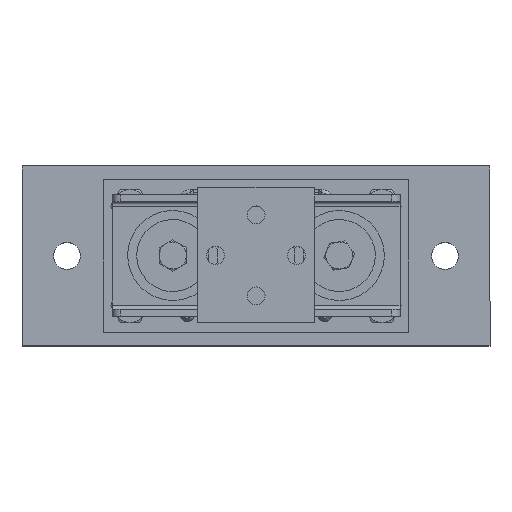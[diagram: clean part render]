
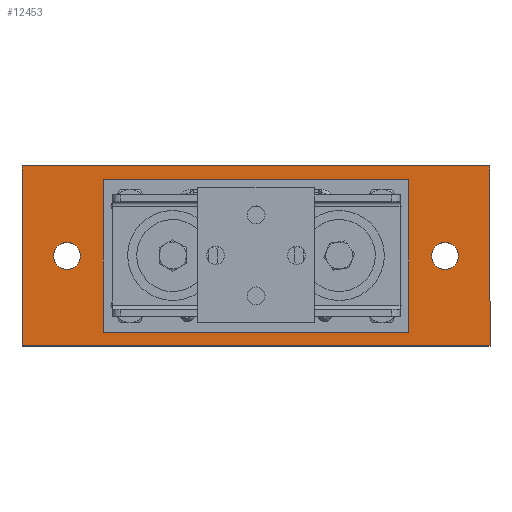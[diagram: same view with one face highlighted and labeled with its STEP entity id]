
A CAD part, top view. The second image highlights one B-rep face of the part: STEP entity #12453.
In plain terms, the highlighted planar face has unit normal (0, 0, 1) as drawn and (0, 0, -1) by its records, which use the part's own axes.
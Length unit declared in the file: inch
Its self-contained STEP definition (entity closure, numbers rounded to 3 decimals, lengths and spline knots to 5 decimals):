
#1047=FACE_BOUND($,#3131,.T.);
#1048=FACE_BOUND($,#3132,.T.);
#1049=FACE_BOUND($,#3133,.T.);
#1050=FACE_BOUND($,#3134,.T.);
#1051=FACE_BOUND($,#3135,.T.);
#1052=FACE_BOUND($,#3136,.T.);
#1053=FACE_BOUND($,#3137,.T.);
#1574=PLANE($,#13470);
#3131=EDGE_LOOP($,(#11365));
#3132=EDGE_LOOP($,(#11366));
#3133=EDGE_LOOP($,(#11367));
#3134=EDGE_LOOP($,(#11368));
#3135=EDGE_LOOP($,(#11369));
#3136=EDGE_LOOP($,(#11370));
#3137=EDGE_LOOP($,(#11371,#11372,#11373,#11374));
#3457=CIRCLE($,#13442,0.375);
#3459=CIRCLE($,#13445,0.375);
#3462=CIRCLE($,#13450,0.375);
#3465=CIRCLE($,#13455,0.375);
#3468=CIRCLE($,#13460,0.375);
#3471=CIRCLE($,#13465,0.375);
#4465=LINE($,#21956,#5489);
#4469=LINE($,#21963,#5493);
#4472=LINE($,#21969,#5496);
#4474=LINE($,#21972,#5498);
#5489=VECTOR($,#16284,5.);
#5493=VECTOR($,#16290,13.);
#5496=VECTOR($,#16295,5.);
#5498=VECTOR($,#16299,13.);
#6545=VERTEX_POINT($,#21910);
#6547=VERTEX_POINT($,#21915);
#6550=VERTEX_POINT($,#21923);
#6553=VERTEX_POINT($,#21931);
#6556=VERTEX_POINT($,#21939);
#6559=VERTEX_POINT($,#21947);
#6562=VERTEX_POINT($,#21953);
#6563=VERTEX_POINT($,#21955);
#6565=VERTEX_POINT($,#21961);
#6567=VERTEX_POINT($,#21967);
#8163=EDGE_CURVE($,#6545,#6545,#3457,.T.);
#8165=EDGE_CURVE($,#6547,#6547,#3459,.T.);
#8168=EDGE_CURVE($,#6550,#6550,#3462,.T.);
#8171=EDGE_CURVE($,#6553,#6553,#3465,.T.);
#8174=EDGE_CURVE($,#6556,#6556,#3468,.T.);
#8177=EDGE_CURVE($,#6559,#6559,#3471,.T.);
#8180=EDGE_CURVE($,#6562,#6563,#4465,.T.);
#8184=EDGE_CURVE($,#6565,#6562,#4469,.T.);
#8187=EDGE_CURVE($,#6567,#6565,#4472,.T.);
#8189=EDGE_CURVE($,#6563,#6567,#4474,.T.);
#11365=ORIENTED_EDGE($,*,*,#8163,.T.);
#11366=ORIENTED_EDGE($,*,*,#8165,.T.);
#11367=ORIENTED_EDGE($,*,*,#8168,.T.);
#11368=ORIENTED_EDGE($,*,*,#8171,.T.);
#11369=ORIENTED_EDGE($,*,*,#8174,.T.);
#11370=ORIENTED_EDGE($,*,*,#8177,.T.);
#11371=ORIENTED_EDGE($,*,*,#8189,.F.);
#11372=ORIENTED_EDGE($,*,*,#8180,.F.);
#11373=ORIENTED_EDGE($,*,*,#8184,.F.);
#11374=ORIENTED_EDGE($,*,*,#8187,.F.);
#12453=ADVANCED_FACE($,(#1047,#1048,#1049,#1050,#1051,#1052,#1053),#1574,
 .F.);
#13442=AXIS2_PLACEMENT_3D($,#21911,#16232,#16233);
#13445=AXIS2_PLACEMENT_3D($,#21916,#16238,#16239);
#13450=AXIS2_PLACEMENT_3D($,#21924,#16248,#16249);
#13455=AXIS2_PLACEMENT_3D($,#21932,#16258,#16259);
#13460=AXIS2_PLACEMENT_3D($,#21940,#16268,#16269);
#13465=AXIS2_PLACEMENT_3D($,#21948,#16278,#16279);
#13470=AXIS2_PLACEMENT_3D($,#21973,#16300,#16301);
#16232=DIRECTION('center_axis',(0.,0.,1.));
#16233=DIRECTION('ref_axis',(-1.,0.,0.));
#16238=DIRECTION('center_axis',(0.,0.,1.));
#16239=DIRECTION('ref_axis',(-1.,0.,0.));
#16248=DIRECTION('center_axis',(0.,0.,1.));
#16249=DIRECTION('ref_axis',(1.,0.,0.));
#16258=DIRECTION('center_axis',(0.,0.,1.));
#16259=DIRECTION('ref_axis',(1.,0.,0.));
#16268=DIRECTION('center_axis',(0.,0.,1.));
#16269=DIRECTION('ref_axis',(1.,0.,0.));
#16278=DIRECTION('center_axis',(0.,0.,1.));
#16279=DIRECTION('ref_axis',(1.,0.,0.));
#16284=DIRECTION($,(0.,-1.,0.));
#16290=DIRECTION($,(-1.,0.,0.));
#16295=DIRECTION($,(0.,1.,0.));
#16299=DIRECTION($,(1.,0.,0.));
#16300=DIRECTION('center_axis',(0.,0.,1.));
#16301=DIRECTION('ref_axis',(1.,0.,0.));
#21910=CARTESIAN_POINT('',(4.875,0.,0.));
#21911=CARTESIAN_POINT('Origin',(5.25,0.,0.));
#21915=CARTESIAN_POINT('',(-5.625,0.,0.));
#21916=CARTESIAN_POINT('Origin',(-5.25,0.,0.));
#21923=CARTESIAN_POINT('',(-3.875,-1.375,0.));
#21924=CARTESIAN_POINT('Origin',(-3.5,-1.375,0.));
#21931=CARTESIAN_POINT('',(3.125,-1.375,0.));
#21932=CARTESIAN_POINT('Origin',(3.5,-1.375,0.));
#21939=CARTESIAN_POINT('',(3.125,1.375,0.));
#21940=CARTESIAN_POINT('Origin',(3.5,1.375,0.));
#21947=CARTESIAN_POINT('',(-3.875,1.375,0.));
#21948=CARTESIAN_POINT('Origin',(-3.5,1.375,0.));
#21953=CARTESIAN_POINT('',(-6.5,2.5,0.));
#21955=CARTESIAN_POINT('',(-6.5,-2.5,0.));
#21956=CARTESIAN_POINT($,(-6.5,2.5,0.));
#21961=CARTESIAN_POINT('',(6.5,2.5,0.));
#21963=CARTESIAN_POINT($,(6.5,2.5,0.));
#21967=CARTESIAN_POINT('',(6.5,-2.5,0.));
#21969=CARTESIAN_POINT($,(6.5,-2.5,0.));
#21972=CARTESIAN_POINT($,(-6.5,-2.5,0.));
#21973=CARTESIAN_POINT('Origin',(0.,0.,0.));
